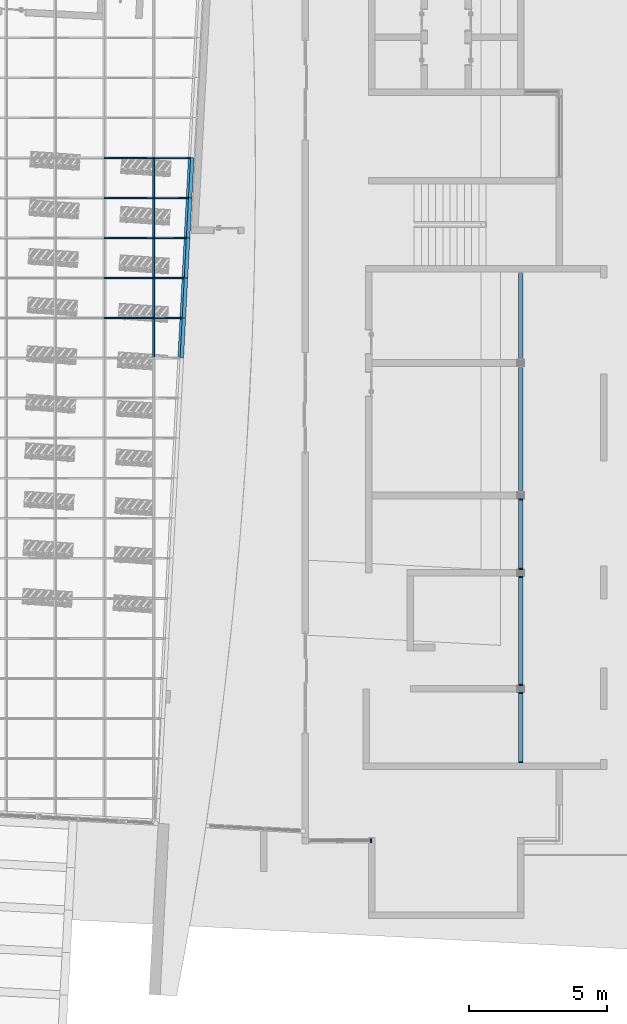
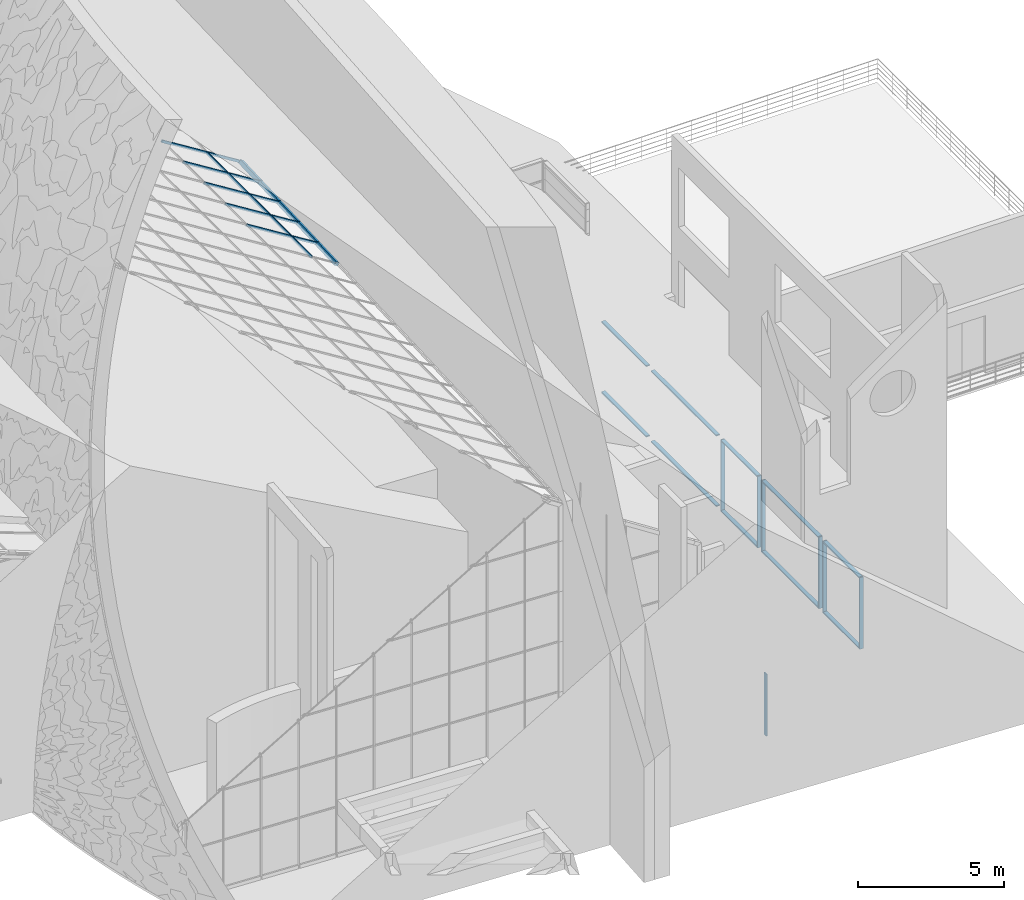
# One storey, part 15 of 82: 37 members, 7 elements without a shape of their own.
"""IFC2X3 building model written with IfcOpenShell, lengths in millimetres."""

import ifcopenshell
import ifcopenshell.guid

model = None  # the IFC model being written
_history = None  # IfcOwnerHistory: only IFC2X3 demands one
_inside = {}  # id of a spatial element -> (the spatial element, [elements in it])
_under = {}  # id of a project, library or spatial element -> (it, [spatial elements below it])
_declared = {}  # id of a project -> (the project, [libraries it declares])
_typed = {}  # id of a type object -> (the type object, [elements of that type])
_made_of = {}  # id of a material, layer set ... -> (it, [elements and type objects made of it])


def new_model(schema):
    """Start an empty IFC model of exactly this schema.

    Asked for "IFC4X3", IfcOpenShell would pick the latest addendum, in which some entities
    have other attributes; the version numbers below select the first issue.
    IFC2X3 requires an IfcOwnerHistory on every rooted entity: one is made here for all.
    """
    global model, _history
    if schema == "IFC4X3":
        model = ifcopenshell.file(schema_version=(4, 3, 0, 0))
    else:
        model = ifcopenshell.file(schema=schema)
    _inside.clear()
    _under.clear()
    _declared.clear()
    _typed.clear()
    _made_of.clear()
    _history = None
    if model.schema == "IFC2X3":
        org = make("IfcOrganization", Name="unknown")
        user = make(
            "IfcPersonAndOrganization",
            ThePerson=make("IfcPerson", FamilyName="unknown"),
            TheOrganization=org,
        )
        app = make(
            "IfcApplication",
            ApplicationDeveloper=org,
            Version="unknown",
            ApplicationFullName="unknown",
            ApplicationIdentifier="unknown",
        )
        _history = make(
            "IfcOwnerHistory",
            OwningUser=user,
            OwningApplication=app,
            ChangeAction="ADDED",
            CreationDate=0,
        )
    return model


def make(cls, **values):
    """One entity of the class cls with the attributes given. An attribute that is None is left unset."""
    return model.create_entity(
        cls, **{name: value for name, value in values.items() if value is not None}
    )


def entity(cls, *values):
    """Any entity or typed value of the class cls, its attributes in the order of the schema. None: left unset."""
    e = model.create_entity(cls)
    for i, value in enumerate(values):
        if value is not None:
            e[i] = value
    return e


def rooted(cls, **values):
    """An entity with a GlobalId (a new one), such as an element, a storey or a relation."""
    return make(cls, GlobalId=ifcopenshell.guid.new(), OwnerHistory=_history, **values)


def si_unit(unit_type, name, prefix=None):
    """IfcSIUnit, for example si_unit("LENGTHUNIT", "METRE", prefix="MILLI")."""
    return make("IfcSIUnit", UnitType=unit_type, Prefix=prefix, Name=name)


def converted_unit(unit_type, name, factor, base, dimensions=None, offset=None):
    """IfcConversionBasedUnit, such as the inch: factor (a typed value) times the base unit."""
    return make(
        "IfcConversionBasedUnit"
        if offset is None
        else "IfcConversionBasedUnitWithOffset",
        ConversionOffset=offset,
        Dimensions=None
        if dimensions is None
        else entity("IfcDimensionalExponents", *dimensions),
        UnitType=unit_type,
        Name=name,
        ConversionFactor=make(
            "IfcMeasureWithUnit", ValueComponent=factor, UnitComponent=base
        ),
    )


def derived_unit(unit_type, elements):
    """IfcDerivedUnit: a product of units, each with its exponent."""
    return make(
        "IfcDerivedUnit",
        Elements=[
            make("IfcDerivedUnitElement", Unit=unit, Exponent=power)
            for unit, power in elements
        ],
        UnitType=unit_type,
    )


def assignment(units):
    """IfcUnitAssignment: the units of a project."""
    return None if units is None else make("IfcUnitAssignment", Units=units)


def point(xyz):
    """IfcCartesianPoint."""
    return None if xyz is None else make("IfcCartesianPoint", Coordinates=xyz)


def direction(xyz):
    """IfcDirection."""
    return None if xyz is None else make("IfcDirection", DirectionRatios=xyz)


def frame(location, z_axis=None, x_axis=None):
    """IfcAxis2Placement3D, a coordinate frame: its origin and axes. An axis left out is left unset."""
    return make(
        "IfcAxis2Placement3D",
        Location=point(location),
        Axis=direction(z_axis),
        RefDirection=direction(x_axis),
    )


def frame_2d(location, x_axis=None):
    """IfcAxis2Placement2D, a coordinate frame in the plane: its origin and x axis."""
    return make(
        "IfcAxis2Placement2D", Location=point(location), RefDirection=direction(x_axis)
    )


def origin():
    """The frame at (0, 0, 0) with its axes left unset."""
    return frame((0.0, 0.0, 0.0))


def origin_2d_with_axis():
    """The frame at (0, 0) in the plane with the x axis (1, 0) written out."""
    return frame_2d((0.0, 0.0), x_axis=(1.0, 0.0))


def place(relative_to, where):
    """IfcLocalPlacement: puts the frame where relative to a parent placement (None: the world)."""
    return make(
        "IfcLocalPlacement", PlacementRelTo=relative_to, RelativePlacement=where
    )


def context(
    kind, dimensions, precision=None, world=None, true_north=None, identifier=None
):
    """IfcGeometricRepresentationContext, for example the 3D "Model" context."""
    return make(
        "IfcGeometricRepresentationContext",
        ContextIdentifier=identifier,
        ContextType=kind,
        CoordinateSpaceDimension=dimensions,
        Precision=precision,
        WorldCoordinateSystem=world,
        TrueNorth=true_north,
    )


def subcontext(parent, identifier, kind, view, scale=None):
    """IfcGeometricRepresentationSubContext, for example "Body" below "Model"."""
    return make(
        "IfcGeometricRepresentationSubContext",
        ContextIdentifier=identifier,
        ContextType=kind,
        ParentContext=parent,
        TargetScale=scale,
        TargetView=view,
    )


def project(units=None, contexts=None):
    """IfcProject with its units and contexts."""
    return rooted(
        "IfcProject",
        Name="project",
        RepresentationContexts=contexts,
        UnitsInContext=assignment(units),
    )


def spatial(cls, under=None, at=None, **own):
    """A site, building, storey or space (cls), placed at a placement, below another one or the project."""
    s = rooted(cls, ObjectPlacement=at, **own)
    if under is not None:
        _under.setdefault(under.id(), (under, []))[1].append(s)
    return s


def polyline(points):
    """IfcPolyline through the points."""
    return make("IfcPolyline", Points=[point(p) for p in points])


def profile(cls, at=None, kind="AREA", **sizes):
    """A parametric profile (cls). Its sizes go by their IFC names, for example OverallWidth=200.0."""
    return make(cls, ProfileType=kind, Position=at, **sizes)


def rectangle(**sizes):
    """IfcRectangleProfileDef."""
    return profile("IfcRectangleProfileDef", **sizes)


def extrude(swept, where, along, depth):
    """IfcExtrudedAreaSolid: the profile swept, set in the frame where, extruded along a direction by depth."""
    return make(
        "IfcExtrudedAreaSolid",
        SweptArea=swept,
        Position=where,
        ExtrudedDirection=direction(along),
        Depth=depth,
    )


def clip(a, b, op="DIFFERENCE"):
    """IfcBooleanClippingResult: the solid a cut by the half space b."""
    return make(
        "IfcBooleanClippingResult", Operator=op, FirstOperand=a, SecondOperand=b
    )


def bounded_halfspace(plane, agree, where, boundary):
    """IfcPolygonalBoundedHalfSpace: a half space limited to a polygon's prism."""
    return make(
        "IfcPolygonalBoundedHalfSpace",
        BaseSurface=make("IfcPlane", Position=plane),
        AgreementFlag=agree,
        Position=where,
        PolygonalBoundary=boundary,
    )


def shape(context_of_items, identifier, shape_type, items):
    """IfcShapeRepresentation: the items that make up one representation, for example the "Body"."""
    return make(
        "IfcShapeRepresentation",
        ContextOfItems=context_of_items,
        RepresentationIdentifier=identifier,
        RepresentationType=shape_type,
        Items=items,
    )


def source(mapping_origin, context_of_items, identifier, shape_type, items):
    """IfcRepresentationMap: a shape defined once, which mapped items show again and again."""
    return make(
        "IfcRepresentationMap",
        MappingOrigin=mapping_origin,
        MappedRepresentation=shape(context_of_items, identifier, shape_type, items),
    )


def transform(
    local_origin,
    x_axis=None,
    y_axis=None,
    z_axis=None,
    scale=None,
    scale2=None,
    scale3=None,
    uniform=True,
):
    """IfcCartesianTransformationOperator3D, or its non-uniform kind. x_axis, y_axis, z_axis: its Axis1, 2, 3."""
    if uniform:
        return make(
            "IfcCartesianTransformationOperator3D",
            Axis1=direction(x_axis),
            Axis2=direction(y_axis),
            LocalOrigin=point(local_origin),
            Scale=scale,
            Axis3=direction(z_axis),
        )
    return make(
        "IfcCartesianTransformationOperator3DnonUniform",
        Axis1=direction(x_axis),
        Axis2=direction(y_axis),
        LocalOrigin=point(local_origin),
        Scale=scale,
        Axis3=direction(z_axis),
        Scale2=scale2,
        Scale3=scale3,
    )


def mapped(mapping_source, mapping_target):
    """IfcMappedItem: shows the shape of a source again, moved by a transform."""
    return make(
        "IfcMappedItem", MappingSource=mapping_source, MappingTarget=mapping_target
    )


def material(Name=None, Category=None):
    """IfcMaterial."""
    return make("IfcMaterial", Name=Name, Category=Category)


def made_of(thing, what):
    """Note that an element or type object is made of a material, layer set ...; save() writes the relation."""
    if what is not None:
        _made_of.setdefault(what.id(), (what, []))[1].append(thing)
    return thing


def type_object(cls, material=None, **own):
    """A type object (cls), such as IfcWallType, which elements share."""
    return made_of(rooted(cls, **own), material)


def type_shapes(of_type, sources):
    """Give a type object the sources (RepresentationMaps) that its elements show as mapped items."""
    of_type.RepresentationMaps = sources


def element(
    cls,
    number,
    at=None,
    inside=None,
    cuts=None,
    type_object=None,
    material=None,
    context=None,
    identifier="Body",
    shape_type=None,
    held_by="IfcProductDefinitionShape",
    body=None,
    shapes=None,
    **own,
):
    """One element of the class cls, such as IfcWall. Its Tag is "e" and its number.

    at: its placement. inside: the storey or other place that contains it. cuts: it is an
    opening in that element (IfcRelVoidsElement). A single representation is given by context,
    identifier, shape_type and body (its items); several are given by shapes. held_by: the class
    of the entity that holds the representations. save() writes the other relations.
    """
    e = rooted(cls, Tag="e%d" % number, ObjectPlacement=at, **own)
    if body is not None:
        shapes = [shape(context, identifier, shape_type, body)]
    if shapes is not None:
        e.Representation = make(held_by, Representations=shapes)
    if inside is not None:
        _inside.setdefault(inside.id(), (inside, []))[1].append(e)
    if cuts is not None:
        rooted(
            "IfcRelVoidsElement", RelatingBuildingElement=cuts, RelatedOpeningElement=e
        )
    if type_object is not None:
        _typed.setdefault(type_object.id(), (type_object, []))[1].append(e)
    return made_of(e, material)


def aggregate(whole, parts):
    """IfcRelAggregates: a whole, such as a stair, and the parts it consists of."""
    return rooted("IfcRelAggregates", RelatingObject=whole, RelatedObjects=parts)


def save(model, path):
    """Write the relations noted so far, then the file.

    IfcRelAggregates (storeys below a building ...), IfcRelContainedInSpatialStructure (elements
    in a storey), IfcRelDefinesByType, IfcRelAssociatesMaterial and IfcRelDeclares: one each for
    every whole, place, type object, material and project.
    """
    for whole, parts in _under.values():
        aggregate(whole, parts)
    for where, things in _inside.values():
        rooted(
            "IfcRelContainedInSpatialStructure",
            RelatedElements=things,
            RelatingStructure=where,
        )
    for kind, things in _typed.values():
        rooted("IfcRelDefinesByType", RelatedObjects=things, RelatingType=kind)
    for what, things in _made_of.values():
        rooted("IfcRelAssociatesMaterial", RelatedObjects=things, RelatingMaterial=what)
    for by, libraries in _declared.values():
        rooted("IfcRelDeclares", RelatingContext=by, RelatedDefinitions=libraries)
    model.write(path)


model = new_model("IFC2X3")

# Units and contexts
model_context = context("Model", 3, precision=0.01, world=origin(), true_north=direction((6.12303176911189e-17, 1.0)))
body_context = subcontext(model_context, "Body", "Model", "MODEL_VIEW")
ifc_project = project(units=[si_unit("LENGTHUNIT", "METRE", prefix="MILLI"), si_unit("AREAUNIT", "SQUARE_METRE"), si_unit("VOLUMEUNIT", "CUBIC_METRE"), converted_unit("PLANEANGLEUNIT", "DEGREE", entity("IfcRatioMeasure", 0.0174532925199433), si_unit("PLANEANGLEUNIT", "RADIAN"), dimensions=[0, 0, 0, 0, 0, 0, 0]), si_unit("MASSUNIT", "GRAM", prefix="KILO"), derived_unit("MASSDENSITYUNIT", [(si_unit("MASSUNIT", "GRAM", prefix="KILO"), 1), (si_unit("LENGTHUNIT", "METRE"), -3)]), si_unit("TIMEUNIT", "SECOND"), si_unit("FREQUENCYUNIT", "HERTZ"), si_unit("THERMODYNAMICTEMPERATUREUNIT", "DEGREE_CELSIUS"), derived_unit("THERMALTRANSMITTANCEUNIT", [(si_unit("MASSUNIT", "GRAM", prefix="KILO"), 1), (si_unit("THERMODYNAMICTEMPERATUREUNIT", "KELVIN"), -1), (si_unit("TIMEUNIT", "SECOND"), -3)]), derived_unit("VOLUMETRICFLOWRATEUNIT", [(si_unit("LENGTHUNIT", "METRE"), 3), (si_unit("TIMEUNIT", "SECOND"), -1)]), si_unit("ELECTRICCURRENTUNIT", "AMPERE"), si_unit("ELECTRICVOLTAGEUNIT", "VOLT"), si_unit("POWERUNIT", "WATT"), si_unit("FORCEUNIT", "NEWTON", prefix="KILO"), si_unit("ILLUMINANCEUNIT", "LUX"), si_unit("LUMINOUSFLUXUNIT", "LUMEN"), si_unit("LUMINOUSINTENSITYUNIT", "CANDELA"), derived_unit("USERDEFINED", [(si_unit("MASSUNIT", "GRAM", prefix="KILO"), -1), (si_unit("LENGTHUNIT", "METRE"), -2), (si_unit("TIMEUNIT", "SECOND"), 3), (si_unit("LUMINOUSFLUXUNIT", "LUMEN"), 1)]), derived_unit("LINEARVELOCITYUNIT", [(si_unit("LENGTHUNIT", "METRE"), 1), (si_unit("TIMEUNIT", "SECOND"), -1)]), si_unit("PRESSUREUNIT", "PASCAL"), derived_unit("USERDEFINED", [(si_unit("LENGTHUNIT", "METRE"), -2), (si_unit("MASSUNIT", "GRAM", prefix="KILO"), 1), (si_unit("TIMEUNIT", "SECOND"), -2)])], contexts=[model_context])

# Site, building, storey
site_placement = place(None, origin())
site = spatial("IfcSite", under=ifc_project, at=site_placement, Name="表面", CompositionType="ELEMENT")
building_placement = place(site_placement, origin())
building = spatial("IfcBuilding", under=site, at=building_placement, CompositionType="ELEMENT")
storey_placement = place(building_placement, origin())
storey = spatial("IfcBuildingStorey", under=building, at=storey_placement, Name="1F", CompositionType="ELEMENT", Elevation=0.0)

# Curtain wall, members
curtain_wall_type_1 = type_object("IfcCurtainWallType", Name="幕墙系统:1450 x 2100mm", PredefinedType="NOTDEFINED")
curtain_wall_1_placement = place(storey_placement, origin())
curtain_wall_1 = element("IfcCurtainWall", 1, at=curtain_wall_1_placement, inside=storey, type_object=curtain_wall_type_1, Name="幕墙系统:1450 x 2100mm", ObjectType="幕墙系统:1450 x 2100mm")
ifc_material_1 = material(Name="金属 - 铝")
member_type_1 = type_object("IfcMemberType", Name="50 x 100mm", PredefinedType="MEMBER")
shared_shape_1 = source(origin(), body_context, "Body", "SweptSolid", [
    extrude(rectangle(XDim=100.0, YDim=50.0, at=origin_2d_with_axis()), frame((0.0, 0.0, -1400.0), z_axis=(0.0, 0.0, 1.0), x_axis=(0.0, -1.0, 0.0)), (0.0, 0.0, 1.0), 1400.0),
])
type_shapes(member_type_1, [shared_shape_1])
placement = place(building_placement, frame((0.0, 0.0, 9000.0)))
member_1_placement = place(placement, frame((-19919.0996129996, -4713.90315351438, 3143.03179701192), z_axis=(0.0, 1.0, 0.0), x_axis=(-0.848048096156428, 0.0, 0.529919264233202)))
member_1 = element("IfcMember", 2, at=member_1_placement, type_object=member_type_1, material=ifc_material_1, Name="矩形竖梃:50 x 100mm", ObjectType="50 x 100mm", context=body_context, shape_type="MappedRepresentation", body=[
    mapped(shared_shape_1, transform((0.0, 0.0, 0.0), scale=1.0)),
])
member_2_placement = place(placement, frame((-19919.0996129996, -6163.90315351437, 3143.03179701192), z_axis=(0.0, 1.0, 0.0), x_axis=(-0.848048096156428, 0.0, 0.529919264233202)))
member_2 = element("IfcMember", 3, at=member_2_placement, type_object=member_type_1, material=ifc_material_1, Name="矩形竖梃:50 x 100mm", ObjectType="50 x 100mm", context=body_context, shape_type="MappedRepresentation", body=[
    mapped(shared_shape_1, transform((0.0, 0.0, 0.0), scale=1.0)),
])
member_3_placement = place(placement, frame((-19919.0996129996, -7613.90315351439, 3143.03179701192), z_axis=(0.0, 1.0, 0.0), x_axis=(-0.848048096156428, 0.0, 0.529919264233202)))
member_3 = element("IfcMember", 4, at=member_3_placement, type_object=member_type_1, material=ifc_material_1, Name="矩形竖梃:50 x 100mm", ObjectType="50 x 100mm", context=body_context, shape_type="MappedRepresentation", body=[
    mapped(shared_shape_1, transform((0.0, 0.0, 0.0), scale=1.0)),
])
member_4_placement = place(placement, frame((-19919.0996129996, -9063.90315351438, 3143.03179701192), z_axis=(0.0, 1.0, 0.0), x_axis=(-0.848048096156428, 0.0, 0.529919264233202)))
member_4 = element("IfcMember", 5, at=member_4_placement, type_object=member_type_1, material=ifc_material_1, Name="矩形竖梃:50 x 100mm", ObjectType="50 x 100mm", context=body_context, shape_type="MappedRepresentation", body=[
    mapped(shared_shape_1, transform((0.0, 0.0, 0.0), scale=1.0)),
])
member_5_placement = place(placement, frame((-19919.0996129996, -10513.9031535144, 3143.03179701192), z_axis=(0.0, 1.0, 0.0), x_axis=(-0.848048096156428, 0.0, 0.529919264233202)))
member_5 = element("IfcMember", 6, at=member_5_placement, type_object=member_type_1, material=ifc_material_1, Name="矩形竖梃:50 x 100mm", ObjectType="50 x 100mm", context=body_context, shape_type="MappedRepresentation", body=[
    mapped(shared_shape_1, transform((0.0, 0.0, 0.0), scale=1.0)),
])
member_type_2 = type_object("IfcMemberType", Name="50 x 100mm", PredefinedType="MEMBER")
shared_shape_2 = source(origin(), body_context, "Body", "SweptSolid", [
    extrude(rectangle(XDim=100.0, YDim=50.0, at=origin_2d_with_axis()), frame((0.0, 0.0, -2100.0), z_axis=(0.0, 0.0, 1.0), x_axis=(0.0, -1.0, 0.0)), (0.0, 0.0, 1.0), 2100.0),
])
type_shapes(member_type_2, [shared_shape_2])
member_6_placement = place(placement, frame((-21700.0006149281, -4688.90315351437, 4255.86225190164), z_axis=(-0.848048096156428, 0.0, 0.529919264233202), x_axis=(0.0, -1.0, 0.0)))
member_6 = element("IfcMember", 7, at=member_6_placement, type_object=member_type_2, material=ifc_material_1, Name="矩形竖梃:50 x 100mm", ObjectType="50 x 100mm", context=body_context, shape_type="MappedRepresentation", body=[
    mapped(shared_shape_2, transform((0.0, 0.0, 0.0), scale=1.0)),
])
member_7_placement = place(placement, frame((-21700.0006149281, -6138.90315351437, 4255.86225190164), z_axis=(-0.848048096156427, 0.0, 0.529919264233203), x_axis=(0.0, -1.0, 0.0)))
member_7 = element("IfcMember", 8, at=member_7_placement, type_object=member_type_2, material=ifc_material_1, Name="矩形竖梃:50 x 100mm", ObjectType="50 x 100mm", context=body_context, shape_type="MappedRepresentation", body=[
    mapped(shared_shape_2, transform((0.0, 0.0, 0.0), scale=1.0)),
])
member_8_placement = place(placement, frame((-21700.0006149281, -7588.90315351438, 4255.86225190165), z_axis=(-0.848048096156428, 0.0, 0.529919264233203), x_axis=(0.0, -1.0, 0.0)))
member_8 = element("IfcMember", 9, at=member_8_placement, type_object=member_type_2, material=ifc_material_1, Name="矩形竖梃:50 x 100mm", ObjectType="50 x 100mm", context=body_context, shape_type="MappedRepresentation", body=[
    mapped(shared_shape_2, transform((0.0, 0.0, 0.0), scale=1.0)),
])
member_9_placement = place(placement, frame((-21700.0006149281, -9038.90315351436, 4255.86225190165), z_axis=(-0.848048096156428, 0.0, 0.529919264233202), x_axis=(0.0, -1.0, 0.0)))
member_9 = element("IfcMember", 10, at=member_9_placement, type_object=member_type_2, material=ifc_material_1, Name="矩形竖梃:50 x 100mm", ObjectType="50 x 100mm", context=body_context, shape_type="MappedRepresentation", body=[
    mapped(shared_shape_2, transform((0.0, 0.0, 0.0), scale=1.0)),
])
member_10_placement = place(placement, frame((-21700.0006149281, -10488.9031535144, 4255.86225190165), z_axis=(-0.848048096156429, 0.0, 0.529919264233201), x_axis=(0.0, -1.0, 0.0)))
member_10 = element("IfcMember", 11, at=member_10_placement, type_object=member_type_2, material=ifc_material_1, Name="矩形竖梃:50 x 100mm", ObjectType="50 x 100mm", context=body_context, shape_type="MappedRepresentation", body=[
    mapped(shared_shape_2, transform((0.0, 0.0, 0.0), scale=1.0)),
])

curtain_wall_type_2 = type_object("IfcCurtainWallType", Name="幕墙:幕墙 1", PredefinedType="NOTDEFINED")
curtain_wall_2_placement = place(storey_placement, origin())
curtain_wall_2 = element("IfcCurtainWall", 12, at=curtain_wall_2_placement, inside=storey, type_object=curtain_wall_type_2, Name="幕墙:幕墙 1", ObjectType="幕墙:幕墙 1")
member_type_3 = type_object("IfcMemberType", Name="50 x 150mm", PredefinedType="MEMBER")
shared_shape_3 = source(origin(), body_context, "Body", "SweptSolid", [
    extrude(rectangle(XDim=150.0, YDim=50.0, at=origin_2d_with_axis()), frame((-25.0, 0.0, -3069.02251367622), z_axis=(0.0, 0.0, 1.0), x_axis=(0.0, -1.0, 0.0)), (0.0, 0.0, 1.0), 3069.02251367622),
])
type_shapes(member_type_3, [shared_shape_3])
member_11_placement = place(storey_placement, frame((-6630.24991264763, -11946.868426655, 3000.0), z_axis=(0.0, -1.0, 0.0), x_axis=(0.0, 0.0, 1.0)))
member_11 = element("IfcMember", 13, at=member_11_placement, type_object=member_type_3, material=ifc_material_1, Name="矩形竖梃:50 x 150mm", ObjectType="50 x 150mm", context=body_context, shape_type="MappedRepresentation", body=[
    mapped(shared_shape_3, transform((0.0, 0.0, 0.0), scale=1.0)),
])
member_type_4 = type_object("IfcMemberType", Name="50 x 150mm", PredefinedType="MEMBER")
shared_shape_4 = source(origin(), body_context, "Body", "SweptSolid", [
    extrude(rectangle(XDim=150.0, YDim=50.0, at=origin_2d_with_axis()), frame((-25.0, 0.0, -3069.02251367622), z_axis=(0.0, 0.0, 1.0), x_axis=(0.0, -1.0, 0.0)), (0.0, 0.0, 1.0), 3069.02251367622),
])
type_shapes(member_type_4, [shared_shape_4])
member_12_placement = place(storey_placement, frame((-6630.24991264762, -8877.84591297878, 0.0), z_axis=(0.0, 1.0, 0.0), x_axis=(0.0, 0.0, -1.0)))
member_12 = element("IfcMember", 14, at=member_12_placement, type_object=member_type_4, material=ifc_material_1, Name="矩形竖梃:50 x 150mm", ObjectType="50 x 150mm", context=body_context, shape_type="MappedRepresentation", body=[
    mapped(shared_shape_4, transform((0.0, 0.0, 0.0), scale=1.0)),
])
aggregate(curtain_wall_2, [member_11, member_12])

curtain_wall_3_placement = place(storey_placement, origin())
curtain_wall_3 = element("IfcCurtainWall", 15, at=curtain_wall_3_placement, inside=storey, type_object=curtain_wall_type_2, Name="幕墙:幕墙 1", ObjectType="幕墙:幕墙 1")
member_type_5 = type_object("IfcMemberType", Name="50 x 150mm", PredefinedType="MEMBER")
shared_shape_5 = source(origin(), body_context, "Body", "SweptSolid", [
    extrude(rectangle(XDim=150.0, YDim=50.0, at=origin_2d_with_axis()), frame((-25.0, 0.0, -4460.0), z_axis=(0.0, 0.0, 1.0), x_axis=(0.0, -1.0, 0.0)), (0.0, 0.0, 1.0), 4460.0),
])
type_shapes(member_type_5, [shared_shape_5])
member_13_placement = place(storey_placement, frame((-6630.24991264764, -16746.868426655, 3000.0), z_axis=(0.0, -1.0, 0.0), x_axis=(0.0, 0.0, 1.0)))
member_13 = element("IfcMember", 16, at=member_13_placement, type_object=member_type_5, material=ifc_material_1, Name="矩形竖梃:50 x 150mm", ObjectType="50 x 150mm", context=body_context, shape_type="MappedRepresentation", body=[
    mapped(shared_shape_5, transform((0.0, 0.0, 0.0), scale=1.0)),
])
member_type_6 = type_object("IfcMemberType", Name="50 x 150mm", PredefinedType="MEMBER")
shared_shape_6 = source(origin(), body_context, "Body", "SweptSolid", [
    extrude(rectangle(XDim=150.0, YDim=50.0, at=origin_2d_with_axis()), frame((-25.0, 0.0, -4460.0), z_axis=(0.0, 0.0, 1.0), x_axis=(0.0, -1.0, 0.0)), (0.0, 0.0, 1.0), 4460.0),
])
type_shapes(member_type_6, [shared_shape_6])
member_14_placement = place(storey_placement, frame((-6630.24991264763, -12286.868426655, 0.0), z_axis=(0.0, 1.0, 0.0), x_axis=(0.0, 0.0, -1.0)))
member_14 = element("IfcMember", 17, at=member_14_placement, type_object=member_type_6, material=ifc_material_1, Name="矩形竖梃:50 x 150mm", ObjectType="50 x 150mm", context=body_context, shape_type="MappedRepresentation", body=[
    mapped(shared_shape_6, transform((0.0, 0.0, 0.0), scale=1.0)),
])
aggregate(curtain_wall_3, [member_13, member_14])

# Curtain wall, member
curtain_wall_type_3 = type_object("IfcCurtainWallType", Name="幕墙:幕墙 2", PredefinedType="NOTDEFINED")
curtain_wall_4_placement = place(storey_placement, origin())
curtain_wall_4 = element("IfcCurtainWall", 18, at=curtain_wall_4_placement, inside=storey, type_object=curtain_wall_type_3, Name="幕墙:幕墙 2", ObjectType="幕墙:幕墙 2")
member_type_7 = type_object("IfcMemberType", Name="50 x 150mm", PredefinedType="MEMBER")
shared_shape_7 = source(origin(), body_context, "Body", "SweptSolid", [
    extrude(rectangle(XDim=150.0, YDim=50.0, at=origin_2d_with_axis()), frame((-25.0, 0.0, -2460.0), z_axis=(0.0, 0.0, 1.0), x_axis=(0.0, -1.0, 0.0)), (0.0, 0.0, 1.0), 2459.99999999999),
])
type_shapes(member_type_7, [shared_shape_7])
member_15_placement = place(storey_placement, frame((-6630.24991264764, -19546.868426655, 3000.0), z_axis=(0.0, -1.0, 0.0), x_axis=(0.0, 0.0, 1.0)))
member_15 = element("IfcMember", 19, at=member_15_placement, type_object=member_type_7, material=ifc_material_1, Name="矩形竖梃:50 x 150mm", ObjectType="50 x 150mm", context=body_context, shape_type="MappedRepresentation", body=[
    mapped(shared_shape_7, transform((0.0, 0.0, 0.0), scale=1.0)),
])

curtain_wall_5_placement = place(storey_placement, origin())
curtain_wall_5 = element("IfcCurtainWall", 20, at=curtain_wall_5_placement, inside=storey, type_object=curtain_wall_type_3, Name="幕墙:幕墙 2", ObjectType="幕墙:幕墙 2")
member_16_placement = place(storey_placement, frame((-6630.24991264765, -26546.868426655, 3000.0), z_axis=(0.0, -1.0, 0.0), x_axis=(0.0, 0.0, 1.0)))
member_16 = element("IfcMember", 21, at=member_16_placement, type_object=member_type_7, material=ifc_material_1, Name="矩形竖梃:50 x 150mm", ObjectType="50 x 150mm", context=body_context, shape_type="MappedRepresentation", body=[
    mapped(shared_shape_7, transform((0.0, 0.0, 0.0), scale=1.0)),
])

# Member
member_type_8 = type_object("IfcMemberType", Name="50 x 150mm", PredefinedType="MEMBER")
shared_shape_8 = source(origin(), body_context, "Body", "SweptSolid", [
    extrude(rectangle(XDim=150.0, YDim=50.0, at=origin_2d_with_axis()), frame((-25.0, 0.0, -2460.0), z_axis=(0.0, 0.0, 1.0), x_axis=(0.0, -1.0, 0.0)), (0.0, 0.0, 1.0), 2459.99999999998),
])
type_shapes(member_type_8, [shared_shape_8])
member_17_placement = place(storey_placement, frame((-6630.24991264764, -17086.868426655, 0.0), z_axis=(0.0, 1.0, 0.0), x_axis=(0.0, 0.0, -1.0)))
member_17 = element("IfcMember", 22, at=member_17_placement, type_object=member_type_8, material=ifc_material_1, Name="矩形竖梃:50 x 150mm", ObjectType="50 x 150mm", context=body_context, shape_type="MappedRepresentation", body=[
    mapped(shared_shape_8, transform((0.0, 0.0, 0.0), scale=1.0)),
])

member_18_placement = place(storey_placement, frame((-6630.24991264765, -24086.868426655, 0.0), z_axis=(0.0, 1.0, 0.0), x_axis=(0.0, 0.0, -1.0)))
member_18 = element("IfcMember", 23, at=member_18_placement, type_object=member_type_8, material=ifc_material_1, Name="矩形竖梃:50 x 150mm", ObjectType="50 x 150mm", context=body_context, shape_type="MappedRepresentation", body=[
    mapped(shared_shape_8, transform((0.0, 0.0, 0.0), scale=1.0)),
])

member_type_9 = type_object("IfcMemberType", Name="50 x 150mm", PredefinedType="MEMBER")
shared_shape_9 = source(origin(), body_context, "Body", "SweptSolid", [
    extrude(rectangle(XDim=150.0, YDim=50.0, at=origin_2d_with_axis()), frame((-25.0, 0.0, -3000.0), z_axis=(0.0, 0.0, 1.0), x_axis=(0.0, -1.0, 0.0)), (0.0, 0.0, 1.0), 3000.00000000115),
])
type_shapes(member_type_9, [shared_shape_9])
member_19_placement = place(storey_placement, frame((-6630.24991264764, -19596.868426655, 0.0), z_axis=(0.0, 0.0, -1.0), x_axis=(0.0, -1.0, 0.0)))
member_19 = element("IfcMember", 24, at=member_19_placement, type_object=member_type_9, material=ifc_material_1, Name="矩形竖梃:50 x 150mm", ObjectType="50 x 150mm", context=body_context, shape_type="MappedRepresentation", body=[
    mapped(shared_shape_9, transform((0.0, 0.0, 0.0), scale=1.0)),
])

# Curtain wall, member
curtain_wall_6_placement = place(storey_placement, origin())
curtain_wall_6 = element("IfcCurtainWall", 25, at=curtain_wall_6_placement, inside=storey, type_object=curtain_wall_type_3, Name="幕墙:幕墙 2", ObjectType="幕墙:幕墙 2")
member_20_placement = place(storey_placement, frame((-6630.24991264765, -23796.868426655, 0.0), z_axis=(0.0, 0.0, -1.0), x_axis=(0.0, -1.0, 0.0)))
member_20 = element("IfcMember", 26, at=member_20_placement, type_object=member_type_9, material=ifc_material_1, Name="矩形竖梃:50 x 150mm", ObjectType="50 x 150mm", context=body_context, shape_type="MappedRepresentation", body=[
    mapped(shared_shape_9, transform((0.0, 0.0, 0.0), scale=1.0)),
])

# Member
member_21_placement = place(storey_placement, frame((-6630.24991264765, -26596.868426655, 0.0), z_axis=(0.0, 0.0, -1.0), x_axis=(0.0, -1.0, 0.0)))
member_21 = element("IfcMember", 27, at=member_21_placement, type_object=member_type_9, material=ifc_material_1, Name="矩形竖梃:50 x 150mm", ObjectType="50 x 150mm", context=body_context, shape_type="MappedRepresentation", body=[
    mapped(shared_shape_9, transform((0.0, 0.0, 0.0), scale=1.0)),
])

member_type_10 = type_object("IfcMemberType", Name="50 x 150mm", PredefinedType="MEMBER")
shared_shape_10 = source(origin(), body_context, "Body", "SweptSolid", [
    extrude(rectangle(XDim=150.0, YDim=50.0, at=origin_2d_with_axis()), frame((-25.0, 0.0, -3000.0), z_axis=(0.0, 0.0, 1.0), x_axis=(0.0, -1.0, 0.0)), (0.0, 0.0, 1.0), 3000.00000000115),
])
type_shapes(member_type_10, [shared_shape_10])
member_22_placement = place(storey_placement, frame((-6630.24991264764, -17036.868426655, 3000.0), z_axis=(0.0, 0.0, 1.0), x_axis=(0.0, 1.0, 0.0)))
member_22 = element("IfcMember", 28, at=member_22_placement, type_object=member_type_10, material=ifc_material_1, Name="矩形竖梃:50 x 150mm", ObjectType="50 x 150mm", context=body_context, shape_type="MappedRepresentation", body=[
    mapped(shared_shape_10, transform((0.0, 0.0, 0.0), scale=1.0)),
])

aggregate(curtain_wall_4, [member_15, member_17, member_19, member_22])

member_23_placement = place(storey_placement, frame((-6630.24991264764, -19836.868426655, 3000.0), z_axis=(0.0, 0.0, 1.0), x_axis=(0.0, 1.0, 0.0)))
member_23 = element("IfcMember", 29, at=member_23_placement, type_object=member_type_10, material=ifc_material_1, Name="矩形竖梃:50 x 150mm", ObjectType="50 x 150mm", context=body_context, shape_type="MappedRepresentation", body=[
    mapped(shared_shape_10, transform((0.0, 0.0, 0.0), scale=1.0)),
])

member_24_placement = place(storey_placement, frame((-6630.24991264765, -24036.868426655, 3000.0), z_axis=(0.0, 0.0, 1.0), x_axis=(0.0, 1.0, 0.0)))
member_24 = element("IfcMember", 30, at=member_24_placement, type_object=member_type_10, material=ifc_material_1, Name="矩形竖梃:50 x 150mm", ObjectType="50 x 150mm", context=body_context, shape_type="MappedRepresentation", body=[
    mapped(shared_shape_10, transform((0.0, 0.0, 0.0), scale=1.0)),
])

aggregate(curtain_wall_5, [member_16, member_18, member_21, member_24])

member_type_11 = type_object("IfcMemberType", Name="50 x 150mm", PredefinedType="MEMBER")
shared_shape_11 = source(origin(), body_context, "Body", "SweptSolid", [
    extrude(rectangle(XDim=150.0, YDim=50.0, at=origin_2d_with_axis()), frame((-25.0, 0.0, -3860.0), z_axis=(0.0, 0.0, 1.0), x_axis=(0.0, -1.0, 0.0)), (0.0, 0.0, 1.0), 3860.00000000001),
])
type_shapes(member_type_11, [shared_shape_11])
member_25_placement = place(storey_placement, frame((-6630.24991264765, -23746.868426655, 3000.0), z_axis=(0.0, -1.0, 0.0), x_axis=(0.0, 0.0, 1.0)))
member_25 = element("IfcMember", 31, at=member_25_placement, type_object=member_type_11, material=ifc_material_1, Name="矩形竖梃:50 x 150mm", ObjectType="50 x 150mm", context=body_context, shape_type="MappedRepresentation", body=[
    mapped(shared_shape_11, transform((0.0, 0.0, 0.0), scale=1.0)),
])

member_type_12 = type_object("IfcMemberType", Name="50 x 150mm", PredefinedType="MEMBER")
shared_shape_12 = source(origin(), body_context, "Body", "SweptSolid", [
    extrude(rectangle(XDim=150.0, YDim=50.0, at=origin_2d_with_axis()), frame((-25.0, 0.0, -3860.0), z_axis=(0.0, 0.0, 1.0), x_axis=(0.0, -1.0, 0.0)), (0.0, 0.0, 1.0), 3860.00000000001),
])
type_shapes(member_type_12, [shared_shape_12])
member_26_placement = place(storey_placement, frame((-6630.24991264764, -19886.868426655, 0.0), z_axis=(0.0, 1.0, 0.0), x_axis=(0.0, 0.0, -1.0)))
member_26 = element("IfcMember", 32, at=member_26_placement, type_object=member_type_12, material=ifc_material_1, Name="矩形竖梃:50 x 150mm", ObjectType="50 x 150mm", context=body_context, shape_type="MappedRepresentation", body=[
    mapped(shared_shape_12, transform((0.0, 0.0, 0.0), scale=1.0)),
])

aggregate(curtain_wall_6, [member_25, member_26, member_20, member_23])

# Curtain wall, member
curtain_wall_7_placement = place(storey_placement, origin())
curtain_wall_7 = element("IfcCurtainWall", 33, at=curtain_wall_7_placement, inside=storey, type_object=curtain_wall_type_3, Name="幕墙:幕墙 2", ObjectType="幕墙:幕墙 2")
member_type_13 = type_object("IfcMemberType", Name="50 x 150mm", PredefinedType="MEMBER")
shared_shape_13 = source(origin(), body_context, "Body", "SweptSolid", [
    extrude(rectangle(XDim=150.0, YDim=50.0, at=origin_2d_with_axis()), frame((-25.0, 0.0, -2600.0), z_axis=(0.0, 0.0, 1.0), x_axis=(0.0, -1.0, 0.0)), (0.0, 0.0, 1.0), 2600.0),
])
type_shapes(member_type_13, [shared_shape_13])
member_27_placement = place(storey_placement, frame((-12030.2499126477, -29416.868426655, 0.0), z_axis=(0.0, 0.0, -1.0), x_axis=(1.0, 0.0, 0.0)))
member_27 = element("IfcMember", 34, at=member_27_placement, type_object=member_type_13, material=ifc_material_1, Name="矩形竖梃:50 x 150mm", ObjectType="50 x 150mm", context=body_context, shape_type="MappedRepresentation", body=[
    mapped(shared_shape_13, transform((0.0, 0.0, 0.0), scale=1.0)),
])
aggregate(curtain_wall_7, [member_27])

# Member
ifc_material_2 = material(Name="木质 - 木材")
member_type_14 = type_object("IfcMemberType", Name="200 x 150mm", PredefinedType="MEMBER")
shared_shape_14 = source(origin(), body_context, "Body", "SweptSolid", [
    extrude(rectangle(XDim=150.0, YDim=150.0, at=frame_2d((2.8421709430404e-14, 0.0), x_axis=(1.0, 0.0))), frame((-75.0, 0.0, -1452.76614220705), z_axis=(0.0, 0.0, 1.0), x_axis=(0.0, -1.0, 0.0)), (0.0, 0.0, 1.0), 1452.76614220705),
])
type_shapes(member_type_14, [shared_shape_14])
member_28_placement = place(placement, frame((-18573.64975561, -6138.90315351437, 2302.30141659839), z_axis=(-0.0523079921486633, -0.998095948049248, 0.0326856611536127), x_axis=(0.84643336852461, -0.0616804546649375, -0.528910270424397)))
member_28 = element("IfcMember", 35, at=member_28_placement, type_object=member_type_14, material=ifc_material_2, Name="矩形竖梃:200 x 150mm", ObjectType="200 x 150mm", context=body_context, shape_type="MappedRepresentation", body=[
    mapped(shared_shape_14, transform((0.0, 0.0, 0.0), scale=1.0)),
])

member_29_placement = place(placement, frame((-18649.6410355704, -7588.90315351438, 2349.78603845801), z_axis=(-0.052307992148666, -0.998095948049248, 0.0326856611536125), x_axis=(0.846433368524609, -0.0616804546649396, -0.528910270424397)))
member_29 = element("IfcMember", 36, at=member_29_placement, type_object=member_type_14, material=ifc_material_2, Name="矩形竖梃:200 x 150mm", ObjectType="200 x 150mm", context=body_context, shape_type="MappedRepresentation", body=[
    mapped(shared_shape_14, transform((0.0, 0.0, 0.0), scale=1.0)),
])

member_30_placement = place(placement, frame((-18725.6323155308, -9038.90315351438, 2397.27066031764), z_axis=(-0.0523079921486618, -0.998095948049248, 0.0326856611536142), x_axis=(0.84643336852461, -0.061680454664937, -0.528910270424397)))
member_30 = element("IfcMember", 37, at=member_30_placement, type_object=member_type_14, material=ifc_material_2, Name="矩形竖梃:200 x 150mm", ObjectType="200 x 150mm", context=body_context, shape_type="MappedRepresentation", body=[
    mapped(shared_shape_14, transform((0.0, 0.0, 0.0), scale=1.0)),
])

member_31_placement = place(placement, frame((-18801.6235954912, -10488.9031535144, 2444.75528217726), z_axis=(-0.0523079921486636, -0.998095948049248, 0.0326856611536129), x_axis=(0.84643336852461, -0.0616804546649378, -0.528910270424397)))
member_31 = element("IfcMember", 38, at=member_31_placement, type_object=member_type_14, material=ifc_material_2, Name="矩形竖梃:200 x 150mm", ObjectType="200 x 150mm", context=body_context, shape_type="MappedRepresentation", body=[
    mapped(shared_shape_14, transform((0.0, 0.0, 0.0), scale=1.0)),
])

member_32_placement = place(placement, frame((-18877.6148754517, -11938.9031535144, 2492.23990403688), z_axis=(-0.052307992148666, -0.998095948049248, 0.0326856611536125), x_axis=(0.846433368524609, -0.0616804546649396, -0.528910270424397)))
member_32 = element("IfcMember", 39, at=member_32_placement, type_object=member_type_14, material=ifc_material_2, Name="矩形竖梃:200 x 150mm", ObjectType="200 x 150mm", context=body_context, shape_type="MappedRepresentation", body=[
    mapped(shared_shape_14, transform((0.0, 0.0, 0.0), scale=1.0)),
])

member_type_15 = type_object("IfcMemberType", Name="50 x 100mm", PredefinedType="MEMBER")
shared_shape_15 = source(origin(), body_context, "Body", "Clipping", [
    clip(clip(extrude(rectangle(XDim=100.0, YDim=50.0, at=origin_2d_with_axis()), frame((0.0, 0.0, -1527.39149120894), z_axis=(0.0, 0.0, 1.0), x_axis=(0.0, -1.0, 0.0)), (0.0, 0.0, 1.0), 1527.39149120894), bounded_halfspace(frame((-9.25206819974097, 75.0, -1526.41829860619), z_axis=(0.0616804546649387, 0.0, -0.998095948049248), x_axis=(-0.998095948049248, 0.0, -0.0616804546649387)), False, frame((0.0, 0.0, -1527.39149120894), z_axis=(0.0, 0.0, 1.0), x_axis=(0.0, -1.0, 0.0)), polyline([(50.0, -9.25206819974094), (50.0, -25.0), (-50.0, -25.0), (-50.0, -9.25206819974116), (50.0, -9.25206819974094)]))), bounded_halfspace(frame((1440.74793180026, 75.0, -1436.81102243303), z_axis=(0.0616804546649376, 0.0, -0.998095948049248), x_axis=(-0.998095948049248, 0.0, -0.0616804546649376)), False, frame((0.0, 0.0, -1527.39149120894), z_axis=(0.0, 0.0, 1.0), x_axis=(0.0, -1.0, 0.0)), polyline([(-50.0, 25.0), (50.0, 25.0), (50.0, -9.25206819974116), (-50.0, -9.25206819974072), (-50.0, 25.0)]))),
])
type_shapes(member_type_15, [shared_shape_15])
member_33_placement = place(placement, frame((-19919.0996129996, -4688.90315351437, 3143.03179701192), z_axis=(-0.848048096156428, 0.0, 0.529919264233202), x_axis=(0.0, -1.0, 0.0)))
member_33 = element("IfcMember", 40, at=member_33_placement, type_object=member_type_15, material=ifc_material_1, Name="矩形竖梃:50 x 100mm", ObjectType="50 x 100mm", context=body_context, shape_type="MappedRepresentation", body=[
    mapped(shared_shape_15, transform((0.0, 0.0, 0.0), scale=1.0)),
])

member_type_16 = type_object("IfcMemberType", Name="50 x 100mm", PredefinedType="MEMBER")
shared_shape_16 = source(origin(), body_context, "Body", "Clipping", [
    clip(clip(extrude(rectangle(XDim=100.0, YDim=50.0, at=frame_2d((-7.105427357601e-14, 0.0), x_axis=(1.0, 0.0))), frame((0.0, 0.0, -1437.78421503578), z_axis=(0.0, 0.0, 1.0), x_axis=(0.0, -1.0, 0.0)), (0.0, 0.0, 1.0), 1437.78421503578), bounded_halfspace(frame((-9.25206819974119, 75.0, -1436.81102243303), z_axis=(0.0616804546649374, 0.0, -0.998095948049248), x_axis=(-0.998095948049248, 0.0, -0.0616804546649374)), False, frame((0.0, 0.0, -1437.78421503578), z_axis=(0.0, 0.0, 1.0), x_axis=(0.0, -1.0, 0.0)), polyline([(50.0, -9.25206819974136), (50.0, -25.0), (-50.0, -25.0), (-50.0, -9.25206819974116), (50.0, -9.25206819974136)]))), bounded_halfspace(frame((1440.74793180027, 75.0, -1347.20374625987), z_axis=(0.0616804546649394, 0.0, -0.998095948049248), x_axis=(-0.998095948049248, 0.0, -0.0616804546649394)), False, frame((0.0, 0.0, -1437.78421503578), z_axis=(0.0, 0.0, 1.0), x_axis=(0.0, -1.0, 0.0)), polyline([(-50.0, 25.0), (50.0, 25.0), (50.0, -9.25206819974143), (-50.0, -9.25206819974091), (-50.0, 25.0)]))),
])
type_shapes(member_type_16, [shared_shape_16])
member_34_placement = place(placement, frame((-19919.0996129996, -6138.90315351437, 3143.03179701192), z_axis=(-0.848048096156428, 0.0, 0.529919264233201), x_axis=(0.0, -1.0, 0.0)))
member_34 = element("IfcMember", 41, at=member_34_placement, type_object=member_type_16, material=ifc_material_1, Name="矩形竖梃:50 x 100mm", ObjectType="50 x 100mm", context=body_context, shape_type="MappedRepresentation", body=[
    mapped(shared_shape_16, transform((0.0, 0.0, 0.0), scale=1.0)),
])

member_type_17 = type_object("IfcMemberType", Name="50 x 100mm", PredefinedType="MEMBER")
shared_shape_17 = source(origin(), body_context, "Body", "Clipping", [
    clip(clip(extrude(rectangle(XDim=100.0, YDim=50.0, at=origin_2d_with_axis()), frame((0.0, 0.0, -1348.17693886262), z_axis=(0.0, 0.0, 1.0), x_axis=(0.0, -1.0, 0.0)), (0.0, 0.0, 1.0), 1348.17693886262), bounded_halfspace(frame((-9.25206819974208, 75.0, -1347.20374625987), z_axis=(0.0616804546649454, 0.0, -0.998095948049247), x_axis=(-0.998095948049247, 0.0, -0.0616804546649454)), False, frame((0.0, 0.0, -1348.17693886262), z_axis=(0.0, 0.0, 1.0), x_axis=(0.0, -1.0, 0.0)), polyline([(50.0, -9.2520681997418), (50.0, -25.0), (-50.0, -25.0), (-50.0, -9.25206819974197), (50.0, -9.2520681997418)]))), bounded_halfspace(frame((1440.74793180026, 75.0, -1257.59647008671), z_axis=(0.0616804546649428, 0.0, -0.998095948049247), x_axis=(-0.998095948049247, 0.0, -0.0616804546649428)), False, frame((0.0, 0.0, -1348.17693886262), z_axis=(0.0, 0.0, 1.0), x_axis=(0.0, -1.0, 0.0)), polyline([(-50.0, 25.0), (50.0, 25.0), (50.0, -9.2520681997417), (-50.0, -9.25206819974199), (-50.0, 25.0)]))),
])
type_shapes(member_type_17, [shared_shape_17])
member_35_placement = place(placement, frame((-19919.0996129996, -7588.90315351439, 3143.03179701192), z_axis=(-0.848048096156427, 0.0, 0.529919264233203), x_axis=(0.0, -1.0, 0.0)))
member_35 = element("IfcMember", 42, at=member_35_placement, type_object=member_type_17, material=ifc_material_1, Name="矩形竖梃:50 x 100mm", ObjectType="50 x 100mm", context=body_context, shape_type="MappedRepresentation", body=[
    mapped(shared_shape_17, transform((0.0, 0.0, 0.0), scale=1.0)),
])

member_type_18 = type_object("IfcMemberType", Name="50 x 100mm", PredefinedType="MEMBER")
shared_shape_18 = source(origin(), body_context, "Body", "Clipping", [
    clip(clip(extrude(rectangle(XDim=100.0, YDim=50.0, at=frame_2d((-6.75015598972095e-14, 0.0), x_axis=(1.0, 0.0))), frame((0.0, 0.0, -1258.56966268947), z_axis=(0.0, 0.0, 1.0), x_axis=(0.0, -1.0, 0.0)), (0.0, 0.0, 1.0), 1258.56966268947), bounded_halfspace(frame((-9.25206819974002, 75.0, -1257.59647008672), z_axis=(0.061680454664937, 0.0, -0.998095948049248), x_axis=(-0.998095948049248, 0.0, -0.061680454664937)), False, frame((0.0, 0.0, -1258.56966268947), z_axis=(0.0, 0.0, 1.0), x_axis=(0.0, -1.0, 0.0)), polyline([(50.0, -9.25206819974), (50.0, -25.0), (-50.0, -25.0), (-50.0, -9.25206819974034), (50.0, -9.25206819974)]))), bounded_halfspace(frame((1440.74793180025, 75.0, -1167.98919391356), z_axis=(0.0616804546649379, 0.0, -0.998095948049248), x_axis=(-0.998095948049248, 0.0, -0.0616804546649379)), False, frame((0.0, 0.0, -1258.56966268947), z_axis=(0.0, 0.0, 1.0), x_axis=(0.0, -1.0, 0.0)), polyline([(-50.0, 25.0), (50.0, 25.0), (50.0, -9.25206819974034), (-50.0, -9.25206819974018), (-50.0, 25.0)]))),
])
type_shapes(member_type_18, [shared_shape_18])
member_36_placement = place(placement, frame((-19919.0996129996, -9038.90315351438, 3143.03179701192), z_axis=(-0.848048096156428, 0.0, 0.529919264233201), x_axis=(0.0, -1.0, 0.0)))
member_36 = element("IfcMember", 43, at=member_36_placement, type_object=member_type_18, material=ifc_material_1, Name="矩形竖梃:50 x 100mm", ObjectType="50 x 100mm", context=body_context, shape_type="MappedRepresentation", body=[
    mapped(shared_shape_18, transform((0.0, 0.0, 0.0), scale=1.0)),
])

member_type_19 = type_object("IfcMemberType", Name="50 x 100mm", PredefinedType="MEMBER")
shared_shape_19 = source(origin(), body_context, "Body", "Clipping", [
    clip(clip(extrude(rectangle(XDim=100.0, YDim=50.0, at=origin_2d_with_axis()), frame((0.0, 0.0, -1168.96238651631), z_axis=(0.0, 0.0, 1.0), x_axis=(0.0, -1.0, 0.0)), (0.0, 0.0, 1.0), 1168.96238651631), bounded_halfspace(frame((-9.25206819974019, 75.0, -1167.98919391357), z_axis=(0.0616804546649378, 0.0, -0.998095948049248), x_axis=(-0.998095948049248, 0.0, -0.0616804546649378)), False, frame((0.0, 0.0, -1168.96238651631), z_axis=(0.0, 0.0, 1.0), x_axis=(0.0, -1.0, 0.0)), polyline([(50.0, -9.25206819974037), (50.0, -25.0), (-50.0, -25.0), (-50.0, -9.25206819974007), (50.0, -9.25206819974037)]))), bounded_halfspace(frame((1440.74793180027, 75.0, -1078.38191774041), z_axis=(0.0616804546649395, 0.0, -0.998095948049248), x_axis=(-0.998095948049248, 0.0, -0.0616804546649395)), False, frame((0.0, 0.0, -1168.96238651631), z_axis=(0.0, 0.0, 1.0), x_axis=(0.0, -1.0, 0.0)), polyline([(-50.0, 25.0), (50.0, 25.0), (50.0, -9.25206819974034), (-50.0, -9.25206819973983), (-50.0, 25.0)]))),
])
type_shapes(member_type_19, [shared_shape_19])
member_37_placement = place(placement, frame((-19919.0996129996, -10488.9031535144, 3143.03179701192), z_axis=(-0.848048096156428, 0.0, 0.529919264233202), x_axis=(0.0, -1.0, 0.0)))
member_37 = element("IfcMember", 44, at=member_37_placement, type_object=member_type_19, material=ifc_material_1, Name="矩形竖梃:50 x 100mm", ObjectType="50 x 100mm", context=body_context, shape_type="MappedRepresentation", body=[
    mapped(shared_shape_19, transform((0.0, 0.0, 0.0), scale=1.0)),
])

aggregate(curtain_wall_1, [member_28, member_29, member_30, member_31, member_32, member_1, member_2, member_3, member_4, member_5, member_33, member_34, member_35, member_36, member_37, member_6, member_7, member_8, member_9, member_10])

save(model, "model.ifc")
